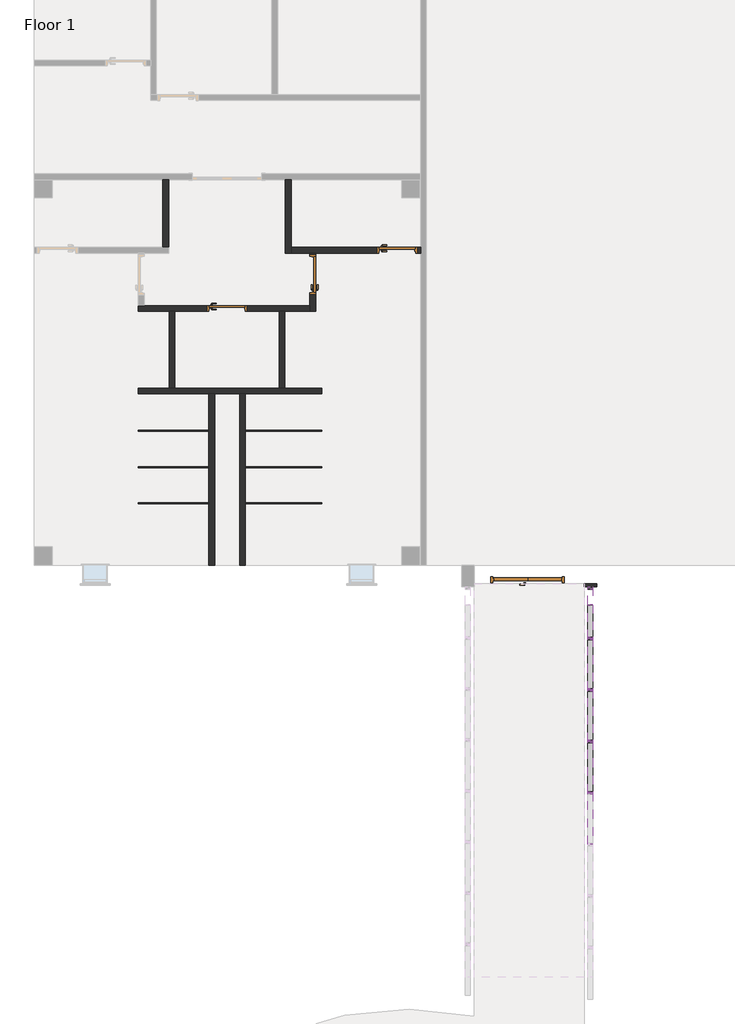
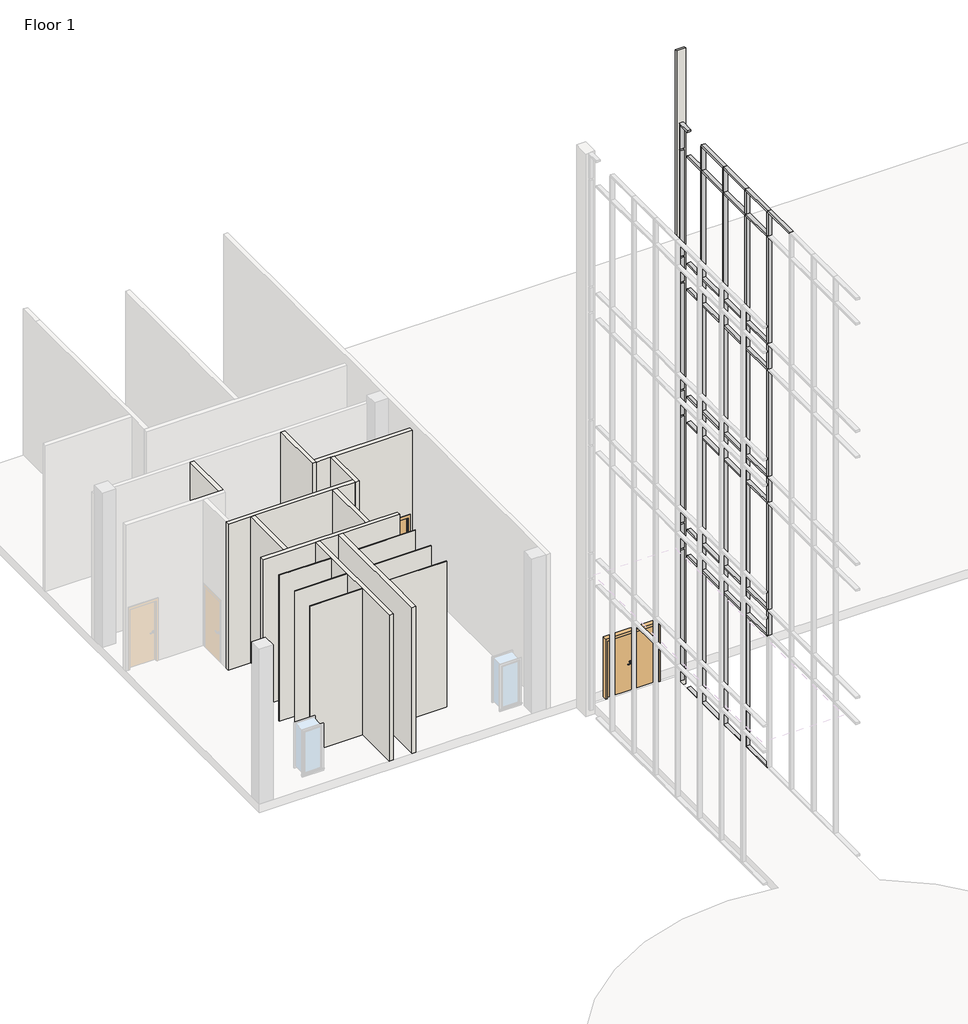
# One storey, part 9 of 11: 76 members, 17 walls, 4 doors.
"""IFC4 building model written with IfcOpenShell, lengths in millimetres."""

from ifc_helpers import new_model, si_unit, origin, origin_with_axes, place, context, project, spatial, polyline, outline, extrude, faceted_brep, transform, mapped, element, save
from components import door_efda3cbc, door_36f17018, door_a46f4f49, member_15823cb3, member_5d07894b, member_3ba9e939, member_ad567e07, member_7db1855a, member_98b79ab6, member_74aba05d, member_5783932f, member_e9605c56, member_5c8c9790, member_bbf28ac8, member_d2e7e466, member_c17f1be2

model = new_model("IFC4")

# Units and contexts
model_context = context("Model", 3, world=origin())
ifc_project = project(units=[si_unit("LENGTHUNIT", "METRE", prefix="MILLI")], contexts=[model_context])

# Site, building, storey
site = spatial("IfcSite", under=ifc_project)
building = spatial("IfcBuilding", under=site)
storey = spatial("IfcBuildingStorey", under=building, Name="Floor 1", Elevation=0.0)

# Doors
placement = place(None, origin())
door_shape = door_efda3cbc(model_context)
element("IfcDoor", 1, ObjectType="Door-Passage-Double-Flush : 68\" x 80\"", at=placement, inside=storey, context=model_context, shape_type="MappedRepresentation", body=[
    mapped(door_shape, transform((9318.6567024, 38397.661889, 0.0), x_axis=(-1.0, 0.0, 0.0), y_axis=(0.0, -1.0, 0.0), z_axis=(0.0, 0.0, 1.0))),
])
door_2_shape = door_36f17018(model_context)
element("IfcDoor", 2, ObjectType="Door-Passage-Single-Flush : 36\" x 84\"", at=placement, inside=storey, context=model_context, shape_type="MappedRepresentation", body=[
    mapped(door_2_shape, transform((3964.0192024, 45858.911889, 0.0), x_axis=(0.0, 1.0, 0.0), y_axis=(-1.0, 0.0, 0.0), z_axis=(0.0, 0.0, 1.0))),
])
door_3_shape = door_a46f4f49(model_context)
element("IfcDoor", 3, ObjectType="Door-Passage-Single-Flush : 36\" x 84\"", at=placement, inside=storey, context=model_context, shape_type="MappedRepresentation", body=[
    mapped(door_3_shape, transform((6072.2192024, 46455.811889, 0.0), x_axis=(1.0, 0.0, 0.0), y_axis=(0.0, 1.0, 0.0), z_axis=(0.0, 0.0, 1.0))),
])
element("IfcDoor", 4, ObjectType="Door-Passage-Single-Flush : 36\" x 84\"", at=placement, inside=storey, context=model_context, shape_type="MappedRepresentation", body=[
    mapped(door_3_shape, transform((1836.7692024, 45008.011889, 0.0), x_axis=(1.0, 0.0, 0.0), y_axis=(0.0, 1.0, 0.0), z_axis=(0.0, 0.0, 1.0))),
])

# Members
member_shape = member_15823cb3(model_context)
element("IfcMember", 5, ObjectType="Rectangular Mullion1 : 2.5\" x 5\" rectangular", at=placement, inside=storey, context=model_context, shape_type="MappedRepresentation", body=[
    mapped(member_shape, transform((10878.8276119, 38086.511889, 19659.6), x_axis=(0.0, 0.0, 1.0), y_axis=(1.0, 0.0, 0.0), z_axis=(0.0, 1.0, 0.0))),
])
member_2_shape = member_5d07894b(model_context)
element("IfcMember", 6, ObjectType="Rectangular Mullion1 : 2.5\" x 5\" rectangular", at=placement, inside=storey, context=model_context, shape_type="MappedRepresentation", body=[
    mapped(member_2_shape, transform((10878.8276119, 35521.111889, -88.9), x_axis=(0.0, 1.0, 0.0), y_axis=(1.0, 0.0, 0.0), z_axis=(0.0, 0.0, -1.0))),
])
element("IfcMember", 7, ObjectType="Rectangular Mullion1 : 2.5\" x 5\" rectangular", at=placement, inside=storey, context=model_context, shape_type="MappedRepresentation", body=[
    mapped(member_2_shape, transform((10878.8276119, 34238.411889, -88.9), x_axis=(0.0, 1.0, 0.0), y_axis=(1.0, 0.0, 0.0), z_axis=(0.0, 0.0, -1.0))),
])
element("IfcMember", 8, ObjectType="Rectangular Mullion1 : 2.5\" x 5\" rectangular", at=placement, inside=storey, context=model_context, shape_type="MappedRepresentation", body=[
    mapped(member_2_shape, transform((10878.8276119, 36803.811889, -88.9), x_axis=(0.0, 1.0, 0.0), y_axis=(1.0, 0.0, 0.0), z_axis=(0.0, 0.0, -1.0))),
])
member_3_shape = member_3ba9e939(model_context)
element("IfcMember", 9, ObjectType="Rectangular Mullion1 : 2.5\" x 5\" rectangular", at=placement, inside=storey, context=model_context, shape_type="MappedRepresentation", body=[
    mapped(member_3_shape, transform((10878.8276119, 32955.711889, 14966.95), x_axis=(0.0, 1.0, 0.0), y_axis=(1.0, 0.0, 0.0), z_axis=(0.0, 0.0, -1.0))),
])
element("IfcMember", 10, ObjectType="Rectangular Mullion1 : 2.5\" x 5\" rectangular", at=placement, inside=storey, context=model_context, shape_type="MappedRepresentation", body=[
    mapped(member_3_shape, transform((10878.8276119, 32955.711889, 10242.55), x_axis=(0.0, 1.0, 0.0), y_axis=(1.0, 0.0, 0.0), z_axis=(0.0, 0.0, -1.0))),
])
element("IfcMember", 11, ObjectType="Rectangular Mullion1 : 2.5\" x 5\" rectangular", at=placement, inside=storey, context=model_context, shape_type="MappedRepresentation", body=[
    mapped(member_3_shape, transform((10878.8276119, 32955.711889, 5518.15), x_axis=(0.0, 1.0, 0.0), y_axis=(1.0, 0.0, 0.0), z_axis=(0.0, 0.0, -1.0))),
])
element("IfcMember", 12, ObjectType="Rectangular Mullion1 : 2.5\" x 5\" rectangular", at=placement, inside=storey, context=model_context, shape_type="MappedRepresentation", body=[
    mapped(member_3_shape, transform((10878.8276119, 35521.111889, 14966.95), x_axis=(0.0, 1.0, 0.0), y_axis=(1.0, 0.0, 0.0), z_axis=(0.0, 0.0, -1.0))),
])
element("IfcMember", 13, ObjectType="Rectangular Mullion1 : 2.5\" x 5\" rectangular", at=placement, inside=storey, context=model_context, shape_type="MappedRepresentation", body=[
    mapped(member_3_shape, transform((10878.8276119, 35521.111889, 10242.55), x_axis=(0.0, 1.0, 0.0), y_axis=(1.0, 0.0, 0.0), z_axis=(0.0, 0.0, -1.0))),
])
element("IfcMember", 14, ObjectType="Rectangular Mullion1 : 2.5\" x 5\" rectangular", at=placement, inside=storey, context=model_context, shape_type="MappedRepresentation", body=[
    mapped(member_3_shape, transform((10878.8276119, 35521.111889, 5518.15), x_axis=(0.0, 1.0, 0.0), y_axis=(1.0, 0.0, 0.0), z_axis=(0.0, 0.0, -1.0))),
])
element("IfcMember", 15, ObjectType="Rectangular Mullion1 : 2.5\" x 5\" rectangular", at=placement, inside=storey, context=model_context, shape_type="MappedRepresentation", body=[
    mapped(member_3_shape, transform((10878.8276119, 34238.411889, 14966.95), x_axis=(0.0, 1.0, 0.0), y_axis=(1.0, 0.0, 0.0), z_axis=(0.0, 0.0, -1.0))),
])
element("IfcMember", 16, ObjectType="Rectangular Mullion1 : 2.5\" x 5\" rectangular", at=placement, inside=storey, context=model_context, shape_type="MappedRepresentation", body=[
    mapped(member_3_shape, transform((10878.8276119, 34238.411889, 10242.55), x_axis=(0.0, 1.0, 0.0), y_axis=(1.0, 0.0, 0.0), z_axis=(0.0, 0.0, -1.0))),
])
element("IfcMember", 17, ObjectType="Rectangular Mullion1 : 2.5\" x 5\" rectangular", at=placement, inside=storey, context=model_context, shape_type="MappedRepresentation", body=[
    mapped(member_3_shape, transform((10878.8276119, 34238.411889, 5518.15), x_axis=(0.0, 1.0, 0.0), y_axis=(1.0, 0.0, 0.0), z_axis=(0.0, 0.0, -1.0))),
])
element("IfcMember", 18, ObjectType="Rectangular Mullion1 : 2.5\" x 5\" rectangular", at=placement, inside=storey, context=model_context, shape_type="MappedRepresentation", body=[
    mapped(member_3_shape, transform((10878.8276119, 36803.811889, 14966.95), x_axis=(0.0, 1.0, 0.0), y_axis=(1.0, 0.0, 0.0), z_axis=(0.0, 0.0, -1.0))),
])
element("IfcMember", 19, ObjectType="Rectangular Mullion1 : 2.5\" x 5\" rectangular", at=placement, inside=storey, context=model_context, shape_type="MappedRepresentation", body=[
    mapped(member_3_shape, transform((10878.8276119, 36803.811889, 10242.55), x_axis=(0.0, 1.0, 0.0), y_axis=(1.0, 0.0, 0.0), z_axis=(0.0, 0.0, -1.0))),
])
element("IfcMember", 20, ObjectType="Rectangular Mullion1 : 2.5\" x 5\" rectangular", at=placement, inside=storey, context=model_context, shape_type="MappedRepresentation", body=[
    mapped(member_3_shape, transform((10878.8276119, 36803.811889, 5518.15), x_axis=(0.0, 1.0, 0.0), y_axis=(1.0, 0.0, 0.0), z_axis=(0.0, 0.0, -1.0))),
])
member_4_shape = member_ad567e07(model_context)
element("IfcMember", 21, ObjectType="Rectangular Mullion1 : 2.5\" x 5\" rectangular", at=placement, inside=storey, context=model_context, shape_type="MappedRepresentation", body=[
    mapped(member_4_shape, transform((10878.8276119, 32955.711889, 18776.95), x_axis=(0.0, 1.0, 0.0), y_axis=(1.0, 0.0, 0.0), z_axis=(0.0, 0.0, -1.0))),
])
element("IfcMember", 22, ObjectType="Rectangular Mullion1 : 2.5\" x 5\" rectangular", at=placement, inside=storey, context=model_context, shape_type="MappedRepresentation", body=[
    mapped(member_4_shape, transform((10878.8276119, 35521.111889, 18776.95), x_axis=(0.0, 1.0, 0.0), y_axis=(1.0, 0.0, 0.0), z_axis=(0.0, 0.0, -1.0))),
])
element("IfcMember", 23, ObjectType="Rectangular Mullion1 : 2.5\" x 5\" rectangular", at=placement, inside=storey, context=model_context, shape_type="MappedRepresentation", body=[
    mapped(member_4_shape, transform((10878.8276119, 34238.411889, 18776.95), x_axis=(0.0, 1.0, 0.0), y_axis=(1.0, 0.0, 0.0), z_axis=(0.0, 0.0, -1.0))),
])
element("IfcMember", 24, ObjectType="Rectangular Mullion1 : 2.5\" x 5\" rectangular", at=placement, inside=storey, context=model_context, shape_type="MappedRepresentation", body=[
    mapped(member_4_shape, transform((10878.8276119, 36803.811889, 18776.95), x_axis=(0.0, 1.0, 0.0), y_axis=(1.0, 0.0, 0.0), z_axis=(0.0, 0.0, -1.0))),
])
member_5_shape = member_7db1855a(model_context)
element("IfcMember", 25, ObjectType="Rectangular Mullion1 : 2.5\" x 5\" rectangular", at=placement, inside=storey, context=model_context, shape_type="MappedRepresentation", body=[
    mapped(member_5_shape, transform((10878.8276119, 32955.711889, 9328.15), x_axis=(0.0, 1.0, 0.0), y_axis=(1.0, 0.0, 0.0), z_axis=(0.0, 0.0, -1.0))),
])
element("IfcMember", 26, ObjectType="Rectangular Mullion1 : 2.5\" x 5\" rectangular", at=placement, inside=storey, context=model_context, shape_type="MappedRepresentation", body=[
    mapped(member_5_shape, transform((10878.8276119, 32955.711889, 4603.75), x_axis=(0.0, 1.0, 0.0), y_axis=(1.0, 0.0, 0.0), z_axis=(0.0, 0.0, -1.0))),
])
element("IfcMember", 27, ObjectType="Rectangular Mullion1 : 2.5\" x 5\" rectangular", at=placement, inside=storey, context=model_context, shape_type="MappedRepresentation", body=[
    mapped(member_5_shape, transform((10878.8276119, 32955.711889, 14052.55), x_axis=(0.0, 1.0, 0.0), y_axis=(1.0, 0.0, 0.0), z_axis=(0.0, 0.0, -1.0))),
])
element("IfcMember", 28, ObjectType="Rectangular Mullion1 : 2.5\" x 5\" rectangular", at=placement, inside=storey, context=model_context, shape_type="MappedRepresentation", body=[
    mapped(member_5_shape, transform((10878.8276119, 35521.111889, 9328.15), x_axis=(0.0, 1.0, 0.0), y_axis=(1.0, 0.0, 0.0), z_axis=(0.0, 0.0, -1.0))),
])
element("IfcMember", 29, ObjectType="Rectangular Mullion1 : 2.5\" x 5\" rectangular", at=placement, inside=storey, context=model_context, shape_type="MappedRepresentation", body=[
    mapped(member_5_shape, transform((10878.8276119, 35521.111889, 4603.75), x_axis=(0.0, 1.0, 0.0), y_axis=(1.0, 0.0, 0.0), z_axis=(0.0, 0.0, -1.0))),
])
element("IfcMember", 30, ObjectType="Rectangular Mullion1 : 2.5\" x 5\" rectangular", at=placement, inside=storey, context=model_context, shape_type="MappedRepresentation", body=[
    mapped(member_5_shape, transform((10878.8276119, 35521.111889, 14052.55), x_axis=(0.0, 1.0, 0.0), y_axis=(1.0, 0.0, 0.0), z_axis=(0.0, 0.0, -1.0))),
])
element("IfcMember", 31, ObjectType="Rectangular Mullion1 : 2.5\" x 5\" rectangular", at=placement, inside=storey, context=model_context, shape_type="MappedRepresentation", body=[
    mapped(member_5_shape, transform((10878.8276119, 34238.411889, 9328.15), x_axis=(0.0, 1.0, 0.0), y_axis=(1.0, 0.0, 0.0), z_axis=(0.0, 0.0, -1.0))),
])
element("IfcMember", 32, ObjectType="Rectangular Mullion1 : 2.5\" x 5\" rectangular", at=placement, inside=storey, context=model_context, shape_type="MappedRepresentation", body=[
    mapped(member_5_shape, transform((10878.8276119, 34238.411889, 4603.75), x_axis=(0.0, 1.0, 0.0), y_axis=(1.0, 0.0, 0.0), z_axis=(0.0, 0.0, -1.0))),
])
element("IfcMember", 33, ObjectType="Rectangular Mullion1 : 2.5\" x 5\" rectangular", at=placement, inside=storey, context=model_context, shape_type="MappedRepresentation", body=[
    mapped(member_5_shape, transform((10878.8276119, 34238.411889, 14052.55), x_axis=(0.0, 1.0, 0.0), y_axis=(1.0, 0.0, 0.0), z_axis=(0.0, 0.0, -1.0))),
])
element("IfcMember", 34, ObjectType="Rectangular Mullion1 : 2.5\" x 5\" rectangular", at=placement, inside=storey, context=model_context, shape_type="MappedRepresentation", body=[
    mapped(member_5_shape, transform((10878.8276119, 36803.811889, 9328.15), x_axis=(0.0, 1.0, 0.0), y_axis=(1.0, 0.0, 0.0), z_axis=(0.0, 0.0, -1.0))),
])
element("IfcMember", 35, ObjectType="Rectangular Mullion1 : 2.5\" x 5\" rectangular", at=placement, inside=storey, context=model_context, shape_type="MappedRepresentation", body=[
    mapped(member_5_shape, transform((10878.8276119, 36803.811889, 4603.75), x_axis=(0.0, 1.0, 0.0), y_axis=(1.0, 0.0, 0.0), z_axis=(0.0, 0.0, -1.0))),
])
element("IfcMember", 36, ObjectType="Rectangular Mullion1 : 2.5\" x 5\" rectangular", at=placement, inside=storey, context=model_context, shape_type="MappedRepresentation", body=[
    mapped(member_5_shape, transform((10878.8276119, 36803.811889, 14052.55), x_axis=(0.0, 1.0, 0.0), y_axis=(1.0, 0.0, 0.0), z_axis=(0.0, 0.0, -1.0))),
])
member_6_shape = member_98b79ab6(model_context)
element("IfcMember", 37, ObjectType="Rectangular Mullion1 : 2.5\" x 5\" rectangular", at=placement, inside=storey, context=model_context, shape_type="MappedRepresentation", body=[
    mapped(member_6_shape, transform((10878.8276119, 34238.411889, 14935.2), x_axis=(0.0, 0.0, 1.0), y_axis=(1.0, 0.0, 0.0), z_axis=(0.0, 1.0, 0.0))),
])
element("IfcMember", 38, ObjectType="Rectangular Mullion1 : 2.5\" x 5\" rectangular", at=placement, inside=storey, context=model_context, shape_type="MappedRepresentation", body=[
    mapped(member_6_shape, transform((10878.8276119, 36803.811889, 14935.2), x_axis=(0.0, 0.0, 1.0), y_axis=(1.0, 0.0, 0.0), z_axis=(0.0, 1.0, 0.0))),
])
element("IfcMember", 39, ObjectType="Rectangular Mullion1 : 2.5\" x 5\" rectangular", at=placement, inside=storey, context=model_context, shape_type="MappedRepresentation", body=[
    mapped(member_6_shape, transform((10878.8276119, 35521.111889, 14935.2), x_axis=(0.0, 0.0, 1.0), y_axis=(1.0, 0.0, 0.0), z_axis=(0.0, 1.0, 0.0))),
])
element("IfcMember", 40, ObjectType="Rectangular Mullion1 : 2.5\" x 5\" rectangular", at=placement, inside=storey, context=model_context, shape_type="MappedRepresentation", body=[
    mapped(member_6_shape, transform((10878.8276119, 34238.411889, 10210.8), x_axis=(0.0, 0.0, 1.0), y_axis=(1.0, 0.0, 0.0), z_axis=(0.0, 1.0, 0.0))),
])
element("IfcMember", 41, ObjectType="Rectangular Mullion1 : 2.5\" x 5\" rectangular", at=placement, inside=storey, context=model_context, shape_type="MappedRepresentation", body=[
    mapped(member_6_shape, transform((10878.8276119, 36803.811889, 10210.8), x_axis=(0.0, 0.0, 1.0), y_axis=(1.0, 0.0, 0.0), z_axis=(0.0, 1.0, 0.0))),
])
element("IfcMember", 42, ObjectType="Rectangular Mullion1 : 2.5\" x 5\" rectangular", at=placement, inside=storey, context=model_context, shape_type="MappedRepresentation", body=[
    mapped(member_6_shape, transform((10878.8276119, 35521.111889, 10210.8), x_axis=(0.0, 0.0, 1.0), y_axis=(1.0, 0.0, 0.0), z_axis=(0.0, 1.0, 0.0))),
])
element("IfcMember", 43, ObjectType="Rectangular Mullion1 : 2.5\" x 5\" rectangular", at=placement, inside=storey, context=model_context, shape_type="MappedRepresentation", body=[
    mapped(member_6_shape, transform((10878.8276119, 34238.411889, 5486.4), x_axis=(0.0, 0.0, 1.0), y_axis=(1.0, 0.0, 0.0), z_axis=(0.0, 1.0, 0.0))),
])
element("IfcMember", 44, ObjectType="Rectangular Mullion1 : 2.5\" x 5\" rectangular", at=placement, inside=storey, context=model_context, shape_type="MappedRepresentation", body=[
    mapped(member_6_shape, transform((10878.8276119, 36803.811889, 5486.4), x_axis=(0.0, 0.0, 1.0), y_axis=(1.0, 0.0, 0.0), z_axis=(0.0, 1.0, 0.0))),
])
element("IfcMember", 45, ObjectType="Rectangular Mullion1 : 2.5\" x 5\" rectangular", at=placement, inside=storey, context=model_context, shape_type="MappedRepresentation", body=[
    mapped(member_6_shape, transform((10878.8276119, 35521.111889, 5486.4), x_axis=(0.0, 0.0, 1.0), y_axis=(1.0, 0.0, 0.0), z_axis=(0.0, 1.0, 0.0))),
])
element("IfcMember", 46, ObjectType="Rectangular Mullion1 : 2.5\" x 5\" rectangular", at=placement, inside=storey, context=model_context, shape_type="MappedRepresentation", body=[
    mapped(member_6_shape, transform((10878.8276119, 34238.411889, 9296.4), x_axis=(0.0, 0.0, 1.0), y_axis=(1.0, 0.0, 0.0), z_axis=(0.0, 1.0, 0.0))),
])
element("IfcMember", 47, ObjectType="Rectangular Mullion1 : 2.5\" x 5\" rectangular", at=placement, inside=storey, context=model_context, shape_type="MappedRepresentation", body=[
    mapped(member_6_shape, transform((10878.8276119, 36803.811889, 9296.4), x_axis=(0.0, 0.0, 1.0), y_axis=(1.0, 0.0, 0.0), z_axis=(0.0, 1.0, 0.0))),
])
element("IfcMember", 48, ObjectType="Rectangular Mullion1 : 2.5\" x 5\" rectangular", at=placement, inside=storey, context=model_context, shape_type="MappedRepresentation", body=[
    mapped(member_6_shape, transform((10878.8276119, 35521.111889, 9296.4), x_axis=(0.0, 0.0, 1.0), y_axis=(1.0, 0.0, 0.0), z_axis=(0.0, 1.0, 0.0))),
])
element("IfcMember", 49, ObjectType="Rectangular Mullion1 : 2.5\" x 5\" rectangular", at=placement, inside=storey, context=model_context, shape_type="MappedRepresentation", body=[
    mapped(member_6_shape, transform((10878.8276119, 34238.411889, 4572.0), x_axis=(0.0, 0.0, 1.0), y_axis=(1.0, 0.0, 0.0), z_axis=(0.0, 1.0, 0.0))),
])
element("IfcMember", 50, ObjectType="Rectangular Mullion1 : 2.5\" x 5\" rectangular", at=placement, inside=storey, context=model_context, shape_type="MappedRepresentation", body=[
    mapped(member_6_shape, transform((10878.8276119, 36803.811889, 4572.0), x_axis=(0.0, 0.0, 1.0), y_axis=(1.0, 0.0, 0.0), z_axis=(0.0, 1.0, 0.0))),
])
element("IfcMember", 51, ObjectType="Rectangular Mullion1 : 2.5\" x 5\" rectangular", at=placement, inside=storey, context=model_context, shape_type="MappedRepresentation", body=[
    mapped(member_6_shape, transform((10878.8276119, 35521.111889, 4572.0), x_axis=(0.0, 0.0, 1.0), y_axis=(1.0, 0.0, 0.0), z_axis=(0.0, 1.0, 0.0))),
])
element("IfcMember", 52, ObjectType="Rectangular Mullion1 : 2.5\" x 5\" rectangular", at=placement, inside=storey, context=model_context, shape_type="MappedRepresentation", body=[
    mapped(member_6_shape, transform((10878.8276119, 34238.411889, 14020.8), x_axis=(0.0, 0.0, 1.0), y_axis=(1.0, 0.0, 0.0), z_axis=(0.0, 1.0, 0.0))),
])
element("IfcMember", 53, ObjectType="Rectangular Mullion1 : 2.5\" x 5\" rectangular", at=placement, inside=storey, context=model_context, shape_type="MappedRepresentation", body=[
    mapped(member_6_shape, transform((10878.8276119, 36803.811889, 14020.8), x_axis=(0.0, 0.0, 1.0), y_axis=(1.0, 0.0, 0.0), z_axis=(0.0, 1.0, 0.0))),
])
element("IfcMember", 54, ObjectType="Rectangular Mullion1 : 2.5\" x 5\" rectangular", at=placement, inside=storey, context=model_context, shape_type="MappedRepresentation", body=[
    mapped(member_6_shape, transform((10878.8276119, 35521.111889, 14020.8), x_axis=(0.0, 0.0, 1.0), y_axis=(1.0, 0.0, 0.0), z_axis=(0.0, 1.0, 0.0))),
])
element("IfcMember", 55, ObjectType="Rectangular Mullion1 : 2.5\" x 5\" rectangular", at=placement, inside=storey, context=model_context, shape_type="MappedRepresentation", body=[
    mapped(member_6_shape, transform((10878.8276119, 34238.411889, 18745.2), x_axis=(0.0, 0.0, 1.0), y_axis=(1.0, 0.0, 0.0), z_axis=(0.0, 1.0, 0.0))),
])
element("IfcMember", 56, ObjectType="Rectangular Mullion1 : 2.5\" x 5\" rectangular", at=placement, inside=storey, context=model_context, shape_type="MappedRepresentation", body=[
    mapped(member_6_shape, transform((10878.8276119, 36803.811889, 18745.2), x_axis=(0.0, 0.0, 1.0), y_axis=(1.0, 0.0, 0.0), z_axis=(0.0, 1.0, 0.0))),
])
element("IfcMember", 57, ObjectType="Rectangular Mullion1 : 2.5\" x 5\" rectangular", at=placement, inside=storey, context=model_context, shape_type="MappedRepresentation", body=[
    mapped(member_6_shape, transform((10878.8276119, 35521.111889, 18745.2), x_axis=(0.0, 0.0, 1.0), y_axis=(1.0, 0.0, 0.0), z_axis=(0.0, 1.0, 0.0))),
])
member_7_shape = member_74aba05d(model_context)
element("IfcMember", 58, ObjectType="Rectangular Mullion1 : 2.5\" x 5\" rectangular", at=placement, inside=storey, context=model_context, shape_type="MappedRepresentation", body=[
    mapped(member_7_shape, transform((10878.8276119, 37629.311889, 14935.2), x_axis=(0.0, 0.0, 1.0), y_axis=(1.0, 0.0, 0.0), z_axis=(0.0, 1.0, 0.0))),
])
element("IfcMember", 59, ObjectType="Rectangular Mullion1 : 2.5\" x 5\" rectangular", at=placement, inside=storey, context=model_context, shape_type="MappedRepresentation", body=[
    mapped(member_7_shape, transform((10878.8276119, 37629.311889, 10210.8), x_axis=(0.0, 0.0, 1.0), y_axis=(1.0, 0.0, 0.0), z_axis=(0.0, 1.0, 0.0))),
])
element("IfcMember", 60, ObjectType="Rectangular Mullion1 : 2.5\" x 5\" rectangular", at=placement, inside=storey, context=model_context, shape_type="MappedRepresentation", body=[
    mapped(member_7_shape, transform((10878.8276119, 37629.311889, 5486.4), x_axis=(0.0, 0.0, 1.0), y_axis=(1.0, 0.0, 0.0), z_axis=(0.0, 1.0, 0.0))),
])
element("IfcMember", 61, ObjectType="Rectangular Mullion1 : 2.5\" x 5\" rectangular", at=placement, inside=storey, context=model_context, shape_type="MappedRepresentation", body=[
    mapped(member_7_shape, transform((10878.8276119, 37629.311889, 9296.4), x_axis=(0.0, 0.0, 1.0), y_axis=(1.0, 0.0, 0.0), z_axis=(0.0, 1.0, 0.0))),
])
element("IfcMember", 62, ObjectType="Rectangular Mullion1 : 2.5\" x 5\" rectangular", at=placement, inside=storey, context=model_context, shape_type="MappedRepresentation", body=[
    mapped(member_7_shape, transform((10878.8276119, 37629.311889, 4572.0), x_axis=(0.0, 0.0, 1.0), y_axis=(1.0, 0.0, 0.0), z_axis=(0.0, 1.0, 0.0))),
])
element("IfcMember", 63, ObjectType="Rectangular Mullion1 : 2.5\" x 5\" rectangular", at=placement, inside=storey, context=model_context, shape_type="MappedRepresentation", body=[
    mapped(member_7_shape, transform((10878.8276119, 37629.311889, 14020.8), x_axis=(0.0, 0.0, 1.0), y_axis=(1.0, 0.0, 0.0), z_axis=(0.0, 1.0, 0.0))),
])
element("IfcMember", 64, ObjectType="Rectangular Mullion1 : 2.5\" x 5\" rectangular", at=placement, inside=storey, context=model_context, shape_type="MappedRepresentation", body=[
    mapped(member_7_shape, transform((10878.8276119, 37629.311889, 18745.2), x_axis=(0.0, 0.0, 1.0), y_axis=(1.0, 0.0, 0.0), z_axis=(0.0, 1.0, 0.0))),
])
member_8_shape = member_5783932f(model_context)
element("IfcMember", 65, ObjectType="Rectangular Mullion1 : 2.5\" x 5\" rectangular", at=placement, inside=storey, context=model_context, shape_type="MappedRepresentation", body=[
    mapped(member_8_shape, transform((10878.8276119, 32955.711889, -152.4), x_axis=(0.0, 0.0, -1.0), y_axis=(1.0, 0.0, 0.0), z_axis=(0.0, -1.0, 0.0))),
])
element("IfcMember", 66, ObjectType="Rectangular Mullion1 : 2.5\" x 5\" rectangular", at=placement, inside=storey, context=model_context, shape_type="MappedRepresentation", body=[
    mapped(member_8_shape, transform((10878.8276119, 35521.111889, -152.4), x_axis=(0.0, 0.0, -1.0), y_axis=(1.0, 0.0, 0.0), z_axis=(0.0, -1.0, 0.0))),
])
element("IfcMember", 67, ObjectType="Rectangular Mullion1 : 2.5\" x 5\" rectangular", at=placement, inside=storey, context=model_context, shape_type="MappedRepresentation", body=[
    mapped(member_8_shape, transform((10878.8276119, 34238.411889, -152.4), x_axis=(0.0, 0.0, -1.0), y_axis=(1.0, 0.0, 0.0), z_axis=(0.0, -1.0, 0.0))),
])
member_9_shape = member_e9605c56(model_context)
element("IfcMember", 68, ObjectType="Rectangular Mullion1 : 2.5\" x 5\" rectangular", at=placement, inside=storey, context=model_context, shape_type="MappedRepresentation", body=[
    mapped(member_9_shape, transform((10878.8276119, 36803.811889, -152.4), x_axis=(0.0, 0.0, -1.0), y_axis=(1.0, 0.0, 0.0), z_axis=(0.0, -1.0, 0.0))),
])
element("IfcMember", 69, ObjectType="Rectangular Mullion1 : 2.5\" x 5\" rectangular", at=placement, inside=storey, context=model_context, shape_type="MappedRepresentation", body=[
    mapped(member_8_shape, transform((10878.8276119, 32955.711889, 19659.6), x_axis=(0.0, 0.0, 1.0), y_axis=(1.0, 0.0, 0.0), z_axis=(0.0, 1.0, 0.0))),
])
element("IfcMember", 70, ObjectType="Rectangular Mullion1 : 2.5\" x 5\" rectangular", at=placement, inside=storey, context=model_context, shape_type="MappedRepresentation", body=[
    mapped(member_8_shape, transform((10878.8276119, 35521.111889, 19659.6), x_axis=(0.0, 0.0, 1.0), y_axis=(1.0, 0.0, 0.0), z_axis=(0.0, 1.0, 0.0))),
])
element("IfcMember", 71, ObjectType="Rectangular Mullion1 : 2.5\" x 5\" rectangular", at=placement, inside=storey, context=model_context, shape_type="MappedRepresentation", body=[
    mapped(member_8_shape, transform((10878.8276119, 34238.411889, 19659.6), x_axis=(0.0, 0.0, 1.0), y_axis=(1.0, 0.0, 0.0), z_axis=(0.0, 1.0, 0.0))),
])
element("IfcMember", 72, ObjectType="Rectangular Mullion1 : 2.5\" x 5\" rectangular", at=placement, inside=storey, context=model_context, shape_type="MappedRepresentation", body=[
    mapped(member_8_shape, transform((10878.8276119, 36803.811889, 19659.6), x_axis=(0.0, 0.0, 1.0), y_axis=(1.0, 0.0, 0.0), z_axis=(0.0, 1.0, 0.0))),
])
member_10_shape = member_5c8c9790(model_context)
element("IfcMember", 73, ObjectType="Rectangular Mullion1 : 2.5\" x 5\" rectangular", at=placement, inside=storey, context=model_context, shape_type="MappedRepresentation", body=[
    mapped(member_10_shape, transform((10878.8276119, 38086.511889, -88.9), x_axis=(0.0, 1.0, 0.0), y_axis=(1.0, 0.0, 0.0), z_axis=(0.0, 0.0, -1.0))),
])
member_11_shape = member_bbf28ac8(model_context)
element("IfcMember", 74, ObjectType="Rectangular Mullion1 : 2.5\" x 5\" rectangular", at=placement, inside=storey, context=model_context, shape_type="MappedRepresentation", body=[
    mapped(member_11_shape, transform((10878.8276119, 38086.511889, 14966.95), x_axis=(0.0, 1.0, 0.0), y_axis=(1.0, 0.0, 0.0), z_axis=(0.0, 0.0, -1.0))),
])
element("IfcMember", 75, ObjectType="Rectangular Mullion1 : 2.5\" x 5\" rectangular", at=placement, inside=storey, context=model_context, shape_type="MappedRepresentation", body=[
    mapped(member_11_shape, transform((10878.8276119, 38086.511889, 10242.55), x_axis=(0.0, 1.0, 0.0), y_axis=(1.0, 0.0, 0.0), z_axis=(0.0, 0.0, -1.0))),
])
element("IfcMember", 76, ObjectType="Rectangular Mullion1 : 2.5\" x 5\" rectangular", at=placement, inside=storey, context=model_context, shape_type="MappedRepresentation", body=[
    mapped(member_11_shape, transform((10878.8276119, 38086.511889, 5518.15), x_axis=(0.0, 1.0, 0.0), y_axis=(1.0, 0.0, 0.0), z_axis=(0.0, 0.0, -1.0))),
])
member_12_shape = member_d2e7e466(model_context)
element("IfcMember", 77, ObjectType="Rectangular Mullion1 : 2.5\" x 5\" rectangular", at=placement, inside=storey, context=model_context, shape_type="MappedRepresentation", body=[
    mapped(member_12_shape, transform((10878.8276119, 38086.511889, 9328.15), x_axis=(0.0, 1.0, 0.0), y_axis=(1.0, 0.0, 0.0), z_axis=(0.0, 0.0, -1.0))),
])
element("IfcMember", 78, ObjectType="Rectangular Mullion1 : 2.5\" x 5\" rectangular", at=placement, inside=storey, context=model_context, shape_type="MappedRepresentation", body=[
    mapped(member_12_shape, transform((10878.8276119, 38086.511889, 4603.75), x_axis=(0.0, 1.0, 0.0), y_axis=(1.0, 0.0, 0.0), z_axis=(0.0, 0.0, -1.0))),
])
element("IfcMember", 79, ObjectType="Rectangular Mullion1 : 2.5\" x 5\" rectangular", at=placement, inside=storey, context=model_context, shape_type="MappedRepresentation", body=[
    mapped(member_12_shape, transform((10878.8276119, 38086.511889, 14052.55), x_axis=(0.0, 1.0, 0.0), y_axis=(1.0, 0.0, 0.0), z_axis=(0.0, 0.0, -1.0))),
])
member_13_shape = member_c17f1be2(model_context)
element("IfcMember", 80, ObjectType="Rectangular Mullion1 : 2.5\" x 5\" rectangular", at=placement, inside=storey, context=model_context, shape_type="MappedRepresentation", body=[
    mapped(member_13_shape, transform((10878.8276119, 38086.511889, 18776.95), x_axis=(0.0, 1.0, 0.0), y_axis=(1.0, 0.0, 0.0), z_axis=(0.0, 0.0, -1.0))),
])

# Walls
element("IfcWall", 81, ObjectType="Interior - 5 1/2\" Partition (1-hr)", at=placement, inside=storey, context=model_context, shape_type="Brep", body=[
    faceted_brep([(3290.9192024, 48221.111889, 0.0), (3290.9192024, 46392.311889, 0.0), (3290.9192024, 46392.311889, 5181.6), (3290.9192024, 48221.111889, 5181.6), (3430.6192024, 48221.111889, 0.0), (3430.6192024, 48221.111889, 5181.6), (3430.6192024, 46532.011889, 5181.6), (3430.6192024, 46392.311889, 5181.6), (3430.6192024, 46392.311889, 0.0), (3430.6192024, 46532.011889, 0.0)], [[[0, 1, 2, 3]], [[4, 5, 6, 7, 8, 9]], [[1, 0, 4, 9, 8]], [[2, 1, 8, 7]], [[0, 3, 5, 4]], [[3, 2, 7, 6, 5]]]),
])
element("IfcWall", 82, ObjectType="Interior - 5 1/2\" Partition (1-hr)", at=placement, inside=storey, context=model_context, shape_type="Brep", body=[
    faceted_brep([(6580.2192024, 46392.311889, 2235.2), (6580.2192024, 46392.311889, 0.0), (6656.4192024, 46392.311889, 0.0), (6656.4192024, 46392.311889, 5181.6), (4040.2192024, 46392.311889, 5181.6), (3900.5192024, 46392.311889, 5181.6), (3430.6192024, 46392.311889, 5181.6), (3430.6192024, 46392.311889, 0.0), (3900.5192024, 46392.311889, 0.0), (4040.2192024, 46392.311889, 0.0), (5564.2192024, 46392.311889, 0.0), (5564.2192024, 46392.311889, 2235.2), (6656.4192024, 46532.011889, 0.0), (6580.2192024, 46532.011889, 0.0), (6580.2192024, 46532.011889, 2235.2), (5564.2192024, 46532.011889, 2235.2), (5564.2192024, 46532.011889, 0.0), (3430.6192024, 46532.011889, 0.0), (3430.6192024, 46532.011889, 5181.6), (6656.4192024, 46532.011889, 5181.6)], [[[0, 1, 2, 3, 4, 5, 6, 7, 8, 9, 10, 11]], [[12, 13, 14, 15, 16, 17, 18, 19]], [[2, 1, 13, 12]], [[10, 9, 8, 7, 17, 16]], [[7, 6, 18, 17]], [[6, 5, 4, 3, 19, 18]], [[3, 2, 12, 19]], [[14, 13, 1, 0]], [[15, 14, 0, 11]], [[16, 15, 11, 10]]]),
])
element("IfcWall", 83, ObjectType="Interior - 5 1/2\" Partition (1-hr)", at=placement, inside=storey, context=model_context, shape_type="SweptSolid", body=[
    extrude(outline(polyline([(382.6192024, 48221.111889), (382.6192024, 46532.011889), (242.9192024, 46532.011889), (242.9192024, 48221.111889), (382.6192024, 48221.111889)])), origin_with_axes(), (0.0, 0.0, 1.0), 5181.6),
])
element("IfcWall", 84, ObjectType="Interior - 5 1/2\" Partition (1-hr)", at=placement, inside=storey, context=model_context, shape_type="Brep", body=[
    faceted_brep([(3900.5192024, 46392.311889, 0.0), (3900.5192024, 46366.911889, 0.0), (3900.5192024, 46366.911889, 2235.2), (3900.5192024, 45350.911889, 2235.2), (3900.5192024, 45350.911889, 0.0), (3900.5192024, 45084.211889, 0.0), (3900.5192024, 44944.511889, 0.0), (3900.5192024, 44944.511889, 5181.6), (3900.5192024, 45084.211889, 5181.6), (3900.5192024, 46392.311889, 5181.6), (4040.2192024, 46366.911889, 2235.2), (4040.2192024, 46366.911889, 0.0), (4040.2192024, 46392.311889, 0.0), (4040.2192024, 46392.311889, 5181.6), (4040.2192024, 44944.511889, 5181.6), (4040.2192024, 44944.511889, 0.0), (4040.2192024, 45350.911889, 0.0), (4040.2192024, 45350.911889, 2235.2)], [[[0, 1, 2, 3, 4, 5, 6, 7, 8, 9]], [[10, 11, 12, 13, 14, 15, 16, 17]], [[12, 11, 1, 0]], [[16, 15, 6, 5, 4]], [[0, 9, 13, 12]], [[7, 6, 15, 14]], [[9, 8, 7, 14, 13]], [[2, 1, 11, 10]], [[3, 2, 10, 17]], [[4, 3, 17, 16]]]),
])
element("IfcWall", 85, ObjectType="Interior - 5 1/2\" Partition (1-hr)", at=placement, inside=storey, context=model_context, shape_type="Brep", body=[
    faceted_brep([(3900.5192024, 45084.211889, 0.0), (2344.7692024, 45084.211889, 0.0), (2344.7692024, 45084.211889, 2235.2), (1328.7692024, 45084.211889, 2235.2), (1328.7692024, 45084.211889, 0.0), (-226.9807976, 45084.211889, 0.0), (-366.6807976, 45084.211889, 0.0), (-366.6807976, 45084.211889, 5181.6), (-226.9807976, 45084.211889, 5181.6), (3900.5192024, 45084.211889, 5181.6), (2344.7692024, 44944.511889, 2235.2), (2344.7692024, 44944.511889, 0.0), (3138.5192024, 44944.511889, 0.0), (3278.2192024, 44944.511889, 0.0), (3900.5192024, 44944.511889, 0.0), (3900.5192024, 44944.511889, 5181.6), (3278.2192024, 44944.511889, 5181.6), (3138.5192024, 44944.511889, 5181.6), (535.0192024, 44944.511889, 5181.6), (395.3192024, 44944.511889, 5181.6), (-366.6807976, 44944.511889, 5181.6), (-366.6807976, 44944.511889, 0.0), (395.3192024, 44944.511889, 0.0), (535.0192024, 44944.511889, 0.0), (1328.7692024, 44944.511889, 0.0), (1328.7692024, 44944.511889, 2235.2)], [[[0, 1, 2, 3, 4, 5, 6, 7, 8, 9]], [[10, 11, 12, 13, 14, 15, 16, 17, 18, 19, 20, 21, 22, 23, 24, 25]], [[14, 13, 12, 11, 1, 0]], [[24, 23, 22, 21, 6, 5, 4]], [[0, 9, 15, 14]], [[7, 6, 21, 20]], [[9, 8, 7, 20, 19, 18, 17, 16, 15]], [[2, 1, 11, 10]], [[3, 2, 10, 25]], [[4, 3, 25, 24]]]),
])
element("IfcWall", 86, ObjectType="Interior - 5 1/2\" Partition (1-hr)", at=placement, inside=storey, context=model_context, shape_type="Brep", body=[
    faceted_brep([(2147.9192024, 42885.524389, 0.0), (2147.9192024, 38618.324389, 0.0), (2147.9192024, 38618.324389, 5181.6), (2147.9192024, 42885.524389, 5181.6), (2287.6192024, 42885.524389, 0.0), (2287.6192024, 42885.524389, 5181.6), (2287.6192024, 41983.824389, 5181.6), (2287.6192024, 41958.424389, 5181.6), (2287.6192024, 41069.424389, 5181.6), (2287.6192024, 41044.024389, 5181.6), (2287.6192024, 40180.424389, 5181.6), (2287.6192024, 40155.024389, 5181.6), (2287.6192024, 38618.324389, 5181.6), (2287.6192024, 38618.324389, 0.0), (2287.6192024, 40155.024389, 0.0), (2287.6192024, 40180.424389, 0.0), (2287.6192024, 41044.024389, 0.0), (2287.6192024, 41069.424389, 0.0), (2287.6192024, 41958.424389, 0.0), (2287.6192024, 41983.824389, 0.0)], [[[0, 1, 2, 3]], [[4, 5, 6, 7, 8, 9, 10, 11, 12, 13, 14, 15, 16, 17, 18, 19]], [[1, 0, 4, 19, 18, 17, 16, 15, 14, 13]], [[2, 1, 13, 12]], [[0, 3, 5, 4]], [[3, 2, 12, 11, 10, 9, 8, 7, 6, 5]]]),
])
element("IfcWall", 87, ObjectType="Interior - 5 1/2\" Partition (1-hr)", at=placement, inside=storey, context=model_context, shape_type="Brep", body=[
    faceted_brep([(-373.0307976, 42885.524389, 0.0), (1385.9192024, 42885.524389, 0.0), (1525.6192024, 42885.524389, 0.0), (2147.9192024, 42885.524389, 0.0), (2287.6192024, 42885.524389, 0.0), (4198.9692024, 42885.524389, 0.0), (4198.9692024, 42885.524389, 5181.6), (2287.6192024, 42885.524389, 5181.6), (2147.9192024, 42885.524389, 5181.6), (1525.6192024, 42885.524389, 5181.6), (1385.9192024, 42885.524389, 5181.6), (-373.0307976, 42885.524389, 5181.6), (-373.0307976, 43025.224389, 0.0), (-373.0307976, 43025.224389, 5181.6), (395.3192024, 43025.224389, 5181.6), (535.0192024, 43025.224389, 5181.6), (3138.5192024, 43025.224389, 5181.6), (3278.2192024, 43025.224389, 5181.6), (4198.9692024, 43025.224389, 5181.6), (4198.9692024, 43025.224389, 0.0), (3278.2192024, 43025.224389, 0.0), (3138.5192024, 43025.224389, 0.0), (535.0192024, 43025.224389, 0.0), (395.3192024, 43025.224389, 0.0)], [[[0, 1, 2, 3, 4, 5, 6, 7, 8, 9, 10, 11]], [[12, 13, 14, 15, 16, 17, 18, 19, 20, 21, 22, 23]], [[5, 4, 3, 2, 1, 0, 12, 23, 22, 21, 20, 19]], [[6, 5, 19, 18]], [[0, 11, 13, 12]], [[11, 10, 9, 8, 7, 6, 18, 17, 16, 15, 14, 13]]]),
])
element("IfcWall", 88, ObjectType="Interior - 5 1/2\" Partition (1-hr)", at=placement, inside=storey, context=model_context, shape_type="SweptSolid", body=[
    extrude(outline(polyline([(3278.2192024, 44944.511889), (3278.2192024, 43025.224389), (3138.5192024, 43025.224389), (3138.5192024, 44944.511889), (3278.2192024, 44944.511889)])), origin_with_axes(), (0.0, 0.0, 1.0), 5181.6),
])
element("IfcWall", 89, ObjectType="Interior - 5 1/2\" Partition (1-hr)", at=placement, inside=storey, context=model_context, shape_type="Brep", body=[
    faceted_brep([(1385.9192024, 42885.524389, 0.0), (1385.9192024, 41983.824389, 0.0), (1385.9192024, 41958.424389, 0.0), (1385.9192024, 41069.424389, 0.0), (1385.9192024, 41044.024389, 0.0), (1385.9192024, 40180.424389, 0.0), (1385.9192024, 40155.024389, 0.0), (1385.9192024, 38618.324389, 0.0), (1385.9192024, 38618.324389, 5181.6), (1385.9192024, 40155.024389, 5181.6), (1385.9192024, 40180.424389, 5181.6), (1385.9192024, 41044.024389, 5181.6), (1385.9192024, 41069.424389, 5181.6), (1385.9192024, 41958.424389, 5181.6), (1385.9192024, 41983.824389, 5181.6), (1385.9192024, 42885.524389, 5181.6), (1525.6192024, 42885.524389, 0.0), (1525.6192024, 42885.524389, 5181.6), (1525.6192024, 38618.324389, 5181.6), (1525.6192024, 38618.324389, 0.0)], [[[0, 1, 2, 3, 4, 5, 6, 7, 8, 9, 10, 11, 12, 13, 14, 15]], [[16, 17, 18, 19]], [[7, 6, 5, 4, 3, 2, 1, 0, 16, 19]], [[8, 7, 19, 18]], [[0, 15, 17, 16]], [[15, 14, 13, 12, 11, 10, 9, 8, 18, 17]]]),
])
element("IfcWall", 90, ObjectType="Interior - 5 1/2\" Partition (1-hr)", at=placement, inside=storey, context=model_context, shape_type="SweptSolid", body=[
    extrude(outline(polyline([(395.3192024, 43025.224389), (395.3192024, 44944.511889), (535.0192024, 44944.511889), (535.0192024, 43025.224389), (395.3192024, 43025.224389)])), origin_with_axes(), (0.0, 0.0, 1.0), 5181.6),
])
element("IfcWall", 91, ObjectType="a_Mtl panel on Mtl stud", at=placement, inside=storey, context=model_context, shape_type="Brep", body=[
    faceted_brep([(11034.4026119, 38086.511889, -304.8), (11034.4026119, 38164.299389, -304.8), (11034.4026119, 38164.299389, 19659.6), (11034.4026119, 38164.299389, 22250.4), (11034.4026119, 38086.511889, 22250.4), (11034.4026119, 38086.511889, 19659.6), (10723.2526119, 38086.511889, -304.8), (10723.2526119, 38086.511889, 19659.6), (10723.2526119, 38086.511889, 22250.4), (10723.2526119, 38164.299389, 22250.4), (10723.2526119, 38164.299389, 19659.6), (10723.2526119, 38164.299389, -304.8)], [[[0, 1, 2, 3, 4, 5]], [[6, 7, 8, 9, 10, 11]], [[1, 0, 6, 11]], [[4, 3, 9, 8]], [[0, 5, 4, 8, 7, 6]], [[3, 2, 1, 11, 10, 9]]]),
])
element("IfcWall", 92, ObjectType="toilet partition - 1\"", at=placement, inside=storey, context=model_context, shape_type="SweptSolid", body=[
    extrude(outline(polyline([(4198.9692024, 40155.024389), (2287.6192024, 40155.024389), (2287.6192024, 40180.424389), (4198.9692024, 40180.424389), (4198.9692024, 40155.024389)])), origin_with_axes(), (0.0, 0.0, 1.0), 5181.6),
])
element("IfcWall", 93, ObjectType="toilet partition - 1\"", at=placement, inside=storey, context=model_context, shape_type="SweptSolid", body=[
    extrude(outline(polyline([(4198.9692024, 41044.024389), (2287.6192024, 41044.024389), (2287.6192024, 41069.424389), (4198.9692024, 41069.424389), (4198.9692024, 41044.024389)])), origin_with_axes(), (0.0, 0.0, 1.0), 5181.6),
])
element("IfcWall", 94, ObjectType="toilet partition - 1\"", at=placement, inside=storey, context=model_context, shape_type="SweptSolid", body=[
    extrude(outline(polyline([(4198.9692024, 41958.424389), (2287.6192024, 41958.424389), (2287.6192024, 41983.824389), (4198.9692024, 41983.824389), (4198.9692024, 41958.424389)])), origin_with_axes(), (0.0, 0.0, 1.0), 5181.6),
])
element("IfcWall", 95, ObjectType="toilet partition - 1\"", at=placement, inside=storey, context=model_context, shape_type="SweptSolid", body=[
    extrude(outline(polyline([(-373.0307976, 41983.824389), (1385.9192024, 41983.824389), (1385.9192024, 41958.424389), (-373.0307976, 41958.424389), (-373.0307976, 41983.824389)])), origin_with_axes(), (0.0, 0.0, 1.0), 5181.6),
])
element("IfcWall", 96, ObjectType="toilet partition - 1\"", at=placement, inside=storey, context=model_context, shape_type="SweptSolid", body=[
    extrude(outline(polyline([(-373.0307976, 41069.424389), (1385.9192024, 41069.424389), (1385.9192024, 41044.024389), (-373.0307976, 41044.024389), (-373.0307976, 41069.424389)])), origin_with_axes(), (0.0, 0.0, 1.0), 5181.6),
])
element("IfcWall", 97, ObjectType="toilet partition - 1\"", at=placement, inside=storey, context=model_context, shape_type="SweptSolid", body=[
    extrude(outline(polyline([(-373.0307976, 40180.424389), (1385.9192024, 40180.424389), (1385.9192024, 40155.024389), (-373.0307976, 40155.024389), (-373.0307976, 40180.424389)])), origin_with_axes(), (0.0, 0.0, 1.0), 5181.6),
])

save(model, "model.ifc")
